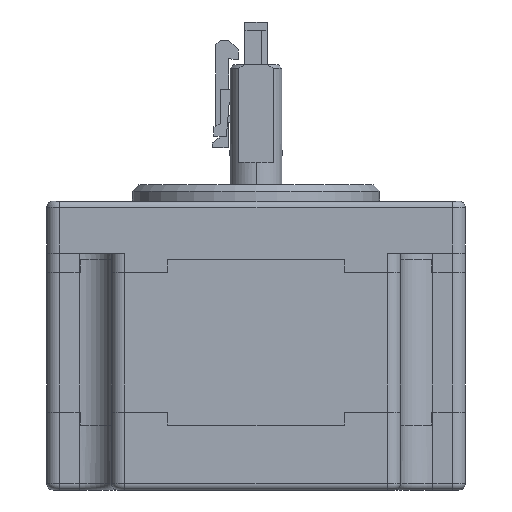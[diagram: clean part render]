
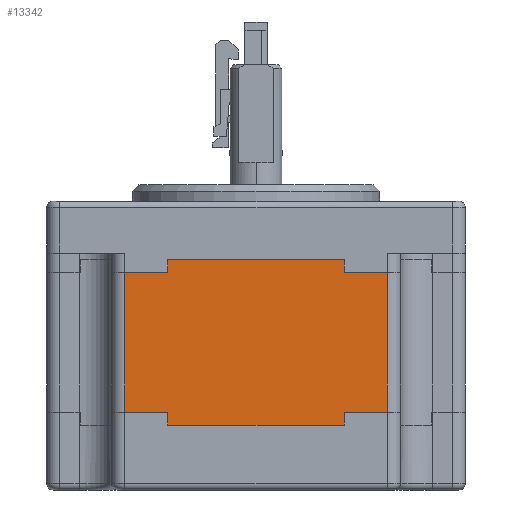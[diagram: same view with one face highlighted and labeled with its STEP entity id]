
A CAD part, front view. The second image highlights one B-rep face of the part: STEP entity #13342.
In plain terms, the highlighted planar face has unit normal (0, -1, 0).
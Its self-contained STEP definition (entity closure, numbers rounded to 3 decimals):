
#1280 = CARTESIAN_POINT ( 'NONE',  ( -20.25, -32.25, 9.5 ) ) ;
#1285 = DIRECTION ( 'NONE',  ( 1., 0., 0. ) ) ;
#1286 = DIRECTION ( 'NONE',  ( -1., 0., 0. ) ) ;
#1287 = CARTESIAN_POINT ( 'NONE',  ( -20.25, -32.25, -14. ) ) ;
#1288 = CARTESIAN_POINT ( 'NONE',  ( -20.25, -32.25, -12. ) ) ;
#1292 = CARTESIAN_POINT ( 'NONE',  ( -13.599, -32.25, -12. ) ) ;
#1293 = DIRECTION ( 'NONE',  ( 0., 0., 1. ) ) ;
#1295 = DIRECTION ( 'NONE',  ( 1., 0., 0. ) ) ;
#1297 = DIRECTION ( 'NONE',  ( 1., 0., 0. ) ) ;
#1298 = CARTESIAN_POINT ( 'NONE',  ( 13.599, -32.25, -12. ) ) ;
#1299 = DIRECTION ( 'NONE',  ( 0., 0., -1. ) ) ;
#1300 = CARTESIAN_POINT ( 'NONE',  ( -20.25, -32.25, -12. ) ) ;
#1301 = DIRECTION ( 'NONE',  ( -1., 0., 0. ) ) ;
#1303 = CARTESIAN_POINT ( 'NONE',  ( -20.25, -32.25, 9.5 ) ) ;
#1309 = DIRECTION ( 'NONE',  ( 0., 0., -1. ) ) ;
#1314 = CARTESIAN_POINT ( 'NONE',  ( 13.599, -32.25, 9.5 ) ) ;
#1318 = CARTESIAN_POINT ( 'NONE',  ( -20.25, -32.25, 11.5 ) ) ;
#1319 = DIRECTION ( 'NONE',  ( 1., 0., 0. ) ) ;
#1324 = CARTESIAN_POINT ( 'NONE',  ( -13.599, -32.25, 9.5 ) ) ;
#1325 = DIRECTION ( 'NONE',  ( 0., 0., 1. ) ) ;
#6105 = EDGE_LOOP ( 'NONE', ( #14934, #14933, #14932, #14931, #14930, #14929, #14928, #14927, #14926, #14925, #14924, #14923 ) ) ;
#9904 = LINE ( 'NONE', #1280, #9908 ) ;
#9907 = LINE ( 'NONE', #1288, #9911 ) ;
#9908 = VECTOR ( 'NONE', #1285, 1000. ) ;
#9909 = LINE ( 'NONE', #1287, #9917 ) ;
#9910 = LINE ( 'NONE', #1292, #9913 ) ;
#9911 = VECTOR ( 'NONE', #1286, 1000. ) ;
#9913 = VECTOR ( 'NONE', #1293, 1000. ) ;
#9916 = LINE ( 'NONE', #1298, #9919 ) ;
#9917 = VECTOR ( 'NONE', #1297, 1000. ) ;
#9918 = LINE ( 'NONE', #1300, #9921 ) ;
#9919 = VECTOR ( 'NONE', #1299, 1000. ) ;
#9921 = VECTOR ( 'NONE', #1301, 1000. ) ;
#9922 = LINE ( 'NONE', #1314, #9930 ) ;
#9924 = LINE ( 'NONE', #1303, #9926 ) ;
#9926 = VECTOR ( 'NONE', #1295, 1000. ) ;
#9929 = LINE ( 'NONE', #1318, #9932 ) ;
#9930 = VECTOR ( 'NONE', #1309, 1000. ) ;
#9932 = VECTOR ( 'NONE', #1319, 1000. ) ;
#9935 = LINE ( 'NONE', #1324, #9938 ) ;
#9938 = VECTOR ( 'NONE', #1325, 1000. ) ;
#10185 = LINE ( 'NONE', #18347, #10187 ) ;
#10187 = VECTOR ( 'NONE', #18348, 1000. ) ;
#10198 = LINE ( 'NONE', #18375, #10203 ) ;
#10203 = VECTOR ( 'NONE', #18371, 1000. ) ;
#11940 = FACE_OUTER_BOUND ( 'NONE', #6105, .T. ) ;
#12139 = EDGE_CURVE ( 'NONE', #19667, #19682, #9904, .T. ) ;
#12141 = EDGE_CURVE ( 'NONE', #19652, #19649, #9907, .T. ) ;
#12142 = EDGE_CURVE ( 'NONE', #19650, #19652, #9910, .T. ) ;
#12144 = EDGE_CURVE ( 'NONE', #19650, #19647, #9909, .T. ) ;
#12145 = EDGE_CURVE ( 'NONE', #19666, #19647, #9916, .T. ) ;
#12146 = EDGE_CURVE ( 'NONE', #19975, #19666, #9918, .T. ) ;
#12149 = EDGE_CURVE ( 'NONE', #19648, #19914, #9924, .T. ) ;
#12152 = EDGE_CURVE ( 'NONE', #19679, #19648, #9922, .T. ) ;
#12153 = EDGE_CURVE ( 'NONE', #19651, #19679, #9929, .T. ) ;
#12156 = EDGE_CURVE ( 'NONE', #19682, #19651, #9935, .T. ) ;
#12315 = EDGE_CURVE ( 'NONE', #19914, #19975, #10185, .T. ) ;
#12325 = EDGE_CURVE ( 'NONE', #19667, #19649, #10198, .T. ) ;
#12579 = CARTESIAN_POINT ( 'NONE',  ( 20.25, -32.25, 9.5 ) ) ;
#12640 = CARTESIAN_POINT ( 'NONE',  ( 20.25, -32.25, -12. ) ) ;
#13342 = ADVANCED_FACE ( 'NONE', ( #11940 ), #16314, .F. ) ;
#14923 = ORIENTED_EDGE ( 'NONE', *, *, #12156, .F. ) ;
#14924 = ORIENTED_EDGE ( 'NONE', *, *, #12153, .F. ) ;
#14925 = ORIENTED_EDGE ( 'NONE', *, *, #12152, .F. ) ;
#14926 = ORIENTED_EDGE ( 'NONE', *, *, #12149, .F. ) ;
#14927 = ORIENTED_EDGE ( 'NONE', *, *, #12315, .F. ) ;
#14928 = ORIENTED_EDGE ( 'NONE', *, *, #12146, .F. ) ;
#14929 = ORIENTED_EDGE ( 'NONE', *, *, #12145, .F. ) ;
#14930 = ORIENTED_EDGE ( 'NONE', *, *, #12144, .T. ) ;
#14931 = ORIENTED_EDGE ( 'NONE', *, *, #12142, .F. ) ;
#14932 = ORIENTED_EDGE ( 'NONE', *, *, #12141, .F. ) ;
#14933 = ORIENTED_EDGE ( 'NONE', *, *, #12325, .T. ) ;
#14934 = ORIENTED_EDGE ( 'NONE', *, *, #12139, .F. ) ;
#16310 = CARTESIAN_POINT ( 'NONE',  ( -20.25, -32.25, 11.5 ) ) ;
#16314 = PLANE ( 'NONE',  #19279 ) ;
#16316 = DIRECTION ( 'NONE',  ( 0., 1., 0. ) ) ;
#16317 = DIRECTION ( 'NONE',  ( 0., 0., 1. ) ) ;
#17185 = CARTESIAN_POINT ( 'NONE',  ( 13.599, -32.25, -14. ) ) ;
#17186 = CARTESIAN_POINT ( 'NONE',  ( 13.599, -32.25, 9.5 ) ) ;
#17187 = CARTESIAN_POINT ( 'NONE',  ( -20.25, -32.25, -12. ) ) ;
#17188 = CARTESIAN_POINT ( 'NONE',  ( -13.599, -32.25, -14. ) ) ;
#17189 = CARTESIAN_POINT ( 'NONE',  ( -13.599, -32.25, 11.5 ) ) ;
#17190 = CARTESIAN_POINT ( 'NONE',  ( -13.599, -32.25, -12. ) ) ;
#17204 = CARTESIAN_POINT ( 'NONE',  ( 13.599, -32.25, -12. ) ) ;
#17205 = CARTESIAN_POINT ( 'NONE',  ( -20.25, -32.25, 9.5 ) ) ;
#17217 = CARTESIAN_POINT ( 'NONE',  ( 13.599, -32.25, 11.5 ) ) ;
#17220 = CARTESIAN_POINT ( 'NONE',  ( -13.599, -32.25, 9.5 ) ) ;
#18347 = CARTESIAN_POINT ( 'NONE',  ( 20.25, -32.25, 11.5 ) ) ;
#18348 = DIRECTION ( 'NONE',  ( 0., 0., -1. ) ) ;
#18371 = DIRECTION ( 'NONE',  ( 0., 0., -1. ) ) ;
#18375 = CARTESIAN_POINT ( 'NONE',  ( -20.25, -32.25, 11.5 ) ) ;
#19279 = AXIS2_PLACEMENT_3D ( 'NONE', #16310, #16316, #16317 ) ;
#19647 = VERTEX_POINT ( 'NONE', #17185 ) ;
#19648 = VERTEX_POINT ( 'NONE', #17186 ) ;
#19649 = VERTEX_POINT ( 'NONE', #17187 ) ;
#19650 = VERTEX_POINT ( 'NONE', #17188 ) ;
#19651 = VERTEX_POINT ( 'NONE', #17189 ) ;
#19652 = VERTEX_POINT ( 'NONE', #17190 ) ;
#19666 = VERTEX_POINT ( 'NONE', #17204 ) ;
#19667 = VERTEX_POINT ( 'NONE', #17205 ) ;
#19679 = VERTEX_POINT ( 'NONE', #17217 ) ;
#19682 = VERTEX_POINT ( 'NONE', #17220 ) ;
#19914 = VERTEX_POINT ( 'NONE', #12579 ) ;
#19975 = VERTEX_POINT ( 'NONE', #12640 ) ;
